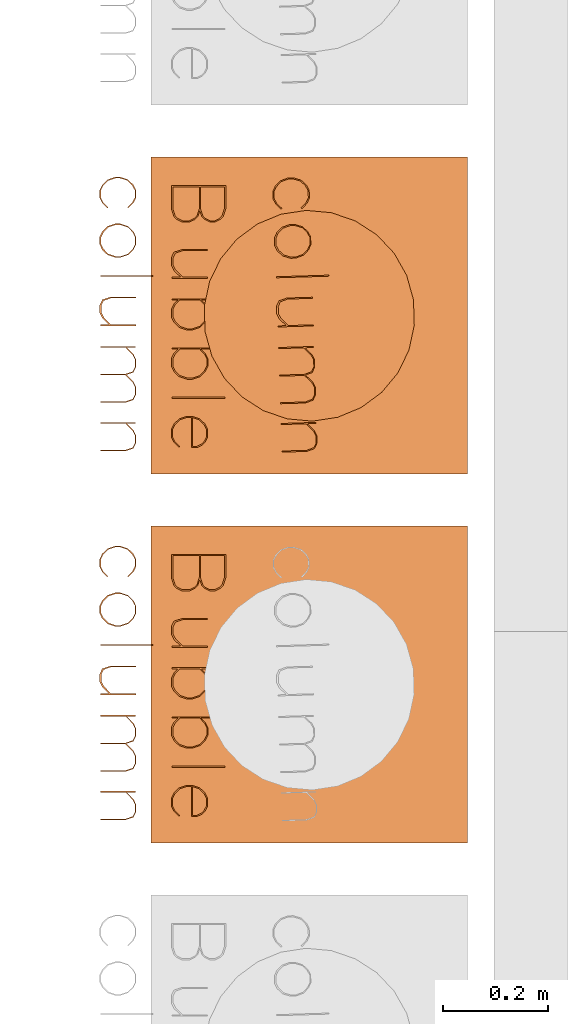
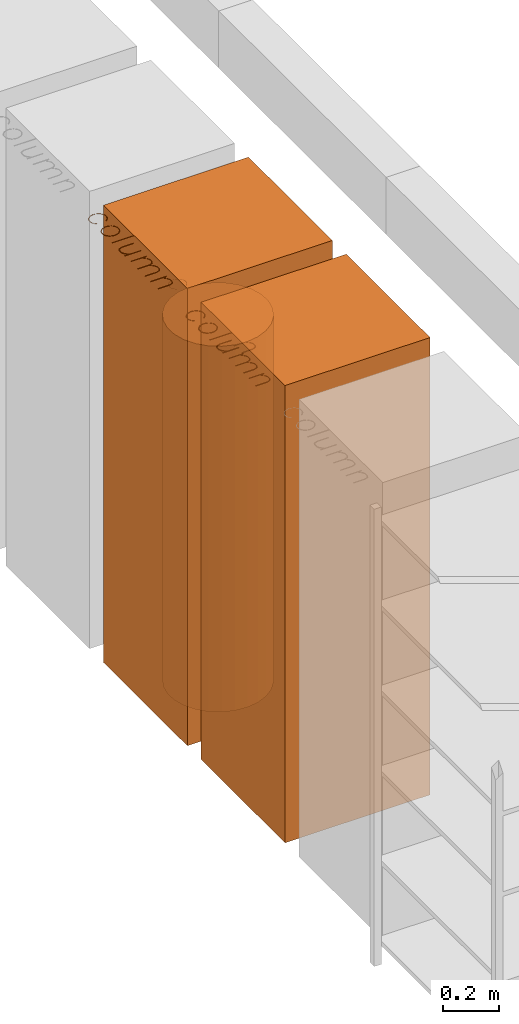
# One storey, part 8 of 43: 3 proxies.
"""IFC2X3 building model written with IfcOpenShell, lengths in metres."""

from ifc_helpers import new_model, entity, si_unit, converted_unit, derived_unit, direction, frame, origin, place, context, subcontext, project, spatial, face_set, surface_model, source, transform, mapped, material, material_list, type_object, type_shapes, element, save


model = new_model("IFC2X3")

# Units and contexts
model_context = context("Model", 3, precision=1e-05, world=origin(), true_north=direction((6.12303176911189e-17, 1.0)))
body_context = subcontext(model_context, "Body", "Model", "MODEL_VIEW")
ifc_project = project(units=[si_unit("LENGTHUNIT", "METRE"), si_unit("AREAUNIT", "SQUARE_METRE"), si_unit("VOLUMEUNIT", "CUBIC_METRE"), converted_unit("PLANEANGLEUNIT", "DEGREE", entity("IfcRatioMeasure", 0.0174532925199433), si_unit("PLANEANGLEUNIT", "RADIAN"), dimensions=[0, 0, 0, 0, 0, 0, 0]), si_unit("MASSUNIT", "GRAM", prefix="KILO"), derived_unit("MASSDENSITYUNIT", [(si_unit("MASSUNIT", "GRAM", prefix="KILO"), 1), (si_unit("LENGTHUNIT", "METRE"), -3)]), derived_unit("MOMENTOFINERTIAUNIT", [(si_unit("LENGTHUNIT", "METRE"), 4)]), si_unit("TIMEUNIT", "SECOND"), si_unit("FREQUENCYUNIT", "HERTZ"), si_unit("THERMODYNAMICTEMPERATUREUNIT", "DEGREE_CELSIUS"), derived_unit("THERMALTRANSMITTANCEUNIT", [(si_unit("MASSUNIT", "GRAM", prefix="KILO"), 1), (si_unit("THERMODYNAMICTEMPERATUREUNIT", "KELVIN"), -1), (si_unit("TIMEUNIT", "SECOND"), -3)]), derived_unit("VOLUMETRICFLOWRATEUNIT", [(si_unit("LENGTHUNIT", "METRE"), 3), (si_unit("TIMEUNIT", "SECOND"), -1)]), si_unit("ELECTRICCURRENTUNIT", "AMPERE"), si_unit("ELECTRICVOLTAGEUNIT", "VOLT"), si_unit("POWERUNIT", "WATT"), si_unit("FORCEUNIT", "NEWTON", prefix="KILO"), si_unit("ILLUMINANCEUNIT", "LUX"), si_unit("LUMINOUSFLUXUNIT", "LUMEN"), si_unit("LUMINOUSINTENSITYUNIT", "CANDELA"), derived_unit("USERDEFINED", [(si_unit("MASSUNIT", "GRAM", prefix="KILO"), -1), (si_unit("LENGTHUNIT", "METRE"), -2), (si_unit("TIMEUNIT", "SECOND"), 3), (si_unit("LUMINOUSFLUXUNIT", "LUMEN"), 1)]), derived_unit("LINEARVELOCITYUNIT", [(si_unit("LENGTHUNIT", "METRE"), 1), (si_unit("TIMEUNIT", "SECOND"), -1)]), si_unit("PRESSUREUNIT", "PASCAL"), derived_unit("USERDEFINED", [(si_unit("LENGTHUNIT", "METRE"), -2), (si_unit("MASSUNIT", "GRAM", prefix="KILO"), 1), (si_unit("TIMEUNIT", "SECOND"), -2)]), derived_unit("LINEARFORCEUNIT", [(si_unit("MASSUNIT", "GRAM", prefix="KILO"), 1), (si_unit("LENGTHUNIT", "METRE"), 1), (si_unit("TIMEUNIT", "SECOND"), -2), (si_unit("LENGTHUNIT", "METRE"), -1)]), derived_unit("PLANARFORCEUNIT", [(si_unit("MASSUNIT", "GRAM", prefix="KILO"), 1), (si_unit("LENGTHUNIT", "METRE"), 1), (si_unit("TIMEUNIT", "SECOND"), -2), (si_unit("LENGTHUNIT", "METRE"), -2)])], contexts=[model_context])

# Site, building, storey
site_placement = place(None, origin())
site = spatial("IfcSite", under=ifc_project, at=site_placement, Name="Default", CompositionType="ELEMENT")
building_placement = place(site_placement, origin())
building = spatial("IfcBuilding", under=site, at=building_placement, CompositionType="ELEMENT")
storey_placement = place(building_placement, frame((0.0, 0.0, 3.0)))
storey = spatial("IfcBuildingStorey", under=building, at=storey_placement, Name="01 OG", CompositionType="ELEMENT", Elevation=3.0)

# Proxies
ifc_material_1 = material(Name="dh_Stellfläche")
building_element_proxy_type_1 = type_object("IfcBuildingElementProxyType", Name="dh_Gerät_Stellfläche Bestand:Nutzergerät", PredefinedType="NOTDEFINED", material=ifc_material_1)
shared_shape_1 = source(origin(), body_context, "Body", "SurfaceModel", [
    surface_model("IfcFaceBasedSurfaceModel", [(-0.199099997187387, -0.507671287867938, 2.005), (-0.187681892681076, -0.503831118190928, 2.005), (-0.182484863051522, -0.498736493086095, 2.005), (-0.177569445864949, -0.488726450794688, 2.005), (-0.177569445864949, -0.478511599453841, 2.005), (-0.182484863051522, -0.468424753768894, 2.005), (-0.187681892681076, -0.46338133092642, 2.005), (-0.202351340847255, -0.458414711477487, 2.005), (-0.246385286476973, -0.458414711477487, 2.005), (-0.246385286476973, -0.561638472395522, 2.005), (-0.202351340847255, -0.561638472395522, 2.005), (-0.187681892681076, -0.556799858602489, 2.005), (-0.182484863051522, -0.551679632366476, 2.005), (-0.177569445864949, -0.541669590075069, 2.005), (-0.177569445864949, -0.526692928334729, 2.005), (-0.182484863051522, -0.516606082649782, 2.005), (-0.187681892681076, -0.511511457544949, 2.005), (-0.202607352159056, -0.508746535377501, 2.005), (-0.188731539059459, -0.513329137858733, 2.005), (-0.184353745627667, -0.517834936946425, 2.005), (-0.179771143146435, -0.52692333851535, 2.005), (-0.179771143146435, -0.540671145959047, 2.005), (-0.184353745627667, -0.549785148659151, 2.005), (-0.188731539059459, -0.554290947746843, 2.005), (-0.202607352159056, -0.558873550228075, 2.005), (-0.244260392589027, -0.558873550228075, 2.005), (-0.244260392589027, -0.508746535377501, 2.005), (-0.244260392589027, -0.506544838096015, 2.005), (-0.244260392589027, -0.461128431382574, 2.005), (-0.202607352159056, -0.461128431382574, 2.005), (-0.188731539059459, -0.465711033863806, 2.005), (-0.184353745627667, -0.470216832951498, 2.005), (-0.179771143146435, -0.479330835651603, 2.005), (-0.179771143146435, -0.488291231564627, 2.005), (-0.184353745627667, -0.497456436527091, 2.005), (-0.188731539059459, -0.501885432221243, 2.005), (-0.202607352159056, -0.506544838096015, 2.005), (-0.0728096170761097, -0.543922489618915, 2.005), (-0.0728096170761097, -0.559999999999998, 2.005), (-0.0706079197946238, -0.559999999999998, 2.005), (-0.0706079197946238, -0.492822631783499, 2.005), (-0.0728096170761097, -0.492822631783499, 2.005), (-0.0728096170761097, -0.540031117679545, 2.005), (-0.0866854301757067, -0.553778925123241, 2.005), (-0.095773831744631, -0.558361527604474, 2.005), (-0.109521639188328, -0.558361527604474, 2.005), (-0.118354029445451, -0.553906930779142, 2.005), (-0.123013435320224, -0.540287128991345, 2.005), (-0.123013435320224, -0.492822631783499, 2.005), (-0.125138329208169, -0.492822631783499, 2.005), (-0.125138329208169, -0.541413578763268, 2.005), (-0.120274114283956, -0.556646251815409, 2.005), (-0.110059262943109, -0.561638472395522, 2.005), (-0.0952362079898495, -0.561638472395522, 2.005), (-0.0852773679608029, -0.556774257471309, 2.005), (-0.0317454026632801, -0.559999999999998, 2.005), (-0.0296205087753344, -0.559999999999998, 2.005), (-0.0296205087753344, -0.548863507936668, 2.005), (-0.0218377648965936, -0.55682545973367, 2.005), (-0.0118789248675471, -0.561638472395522, 2.005), (0.00291852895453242, -0.561638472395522, 2.005), (0.0128261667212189, -0.55682545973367, 2.005), (0.0226570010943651, -0.546866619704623, 2.005), (0.0275724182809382, -0.532094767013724, 2.005), (0.0275724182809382, -0.522212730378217, 2.005), (0.0226570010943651, -0.507440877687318, 2.005), (0.0128261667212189, -0.497482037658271, 2.005), (0.00291852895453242, -0.492617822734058, 2.005), (-0.0118789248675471, -0.492617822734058, 2.005), (-0.0218377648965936, -0.497482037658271, 2.005), (-0.0296205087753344, -0.505367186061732, 2.005), (-0.0296205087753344, -0.460053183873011, 2.005), (-0.0317454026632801, -0.460053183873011, 2.005), (-0.0296205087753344, -0.508004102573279, 2.005), (-0.02045530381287, -0.499043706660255, 2.005), (-0.0113413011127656, -0.494384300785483, 2.005), (0.00240650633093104, -0.494384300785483, 2.005), (0.0114949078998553, -0.499043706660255, 2.005), (0.0207113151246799, -0.50813210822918, 2.005), (0.0253707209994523, -0.522007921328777, 2.005), (0.0253707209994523, -0.531249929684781, 2.005), (0.0207113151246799, -0.545125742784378, 2.005), (0.0114949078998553, -0.554290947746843, 2.005), (0.00240650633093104, -0.558873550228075, 2.005), (-0.0113413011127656, -0.558873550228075, 2.005), (-0.02045530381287, -0.554290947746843, 2.005), (-0.0296205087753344, -0.545253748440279, 2.005), (0.0616475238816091, -0.559999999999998, 2.005), (0.0637724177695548, -0.559999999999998, 2.005), (0.0637724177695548, -0.548863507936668, 2.005), (0.0715551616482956, -0.55682545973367, 2.005), (0.0815140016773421, -0.561638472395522, 2.005), (0.0963114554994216, -0.561638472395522, 2.005), (0.106219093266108, -0.55682545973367, 2.005), (0.116049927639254, -0.546866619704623, 2.005), (0.120965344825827, -0.532094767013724, 2.005), (0.120965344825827, -0.522212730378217, 2.005), (0.116049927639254, -0.507440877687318, 2.005), (0.106219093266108, -0.497482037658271, 2.005), (0.0963114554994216, -0.492617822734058, 2.005), (0.0815140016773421, -0.492617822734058, 2.005), (0.0715551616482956, -0.497482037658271, 2.005), (0.0637724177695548, -0.505367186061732, 2.005), (0.0637724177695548, -0.460053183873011, 2.005), (0.0616475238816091, -0.460053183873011, 2.005), (0.0637724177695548, -0.508004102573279, 2.005), (0.0729376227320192, -0.499043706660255, 2.005), (0.0820516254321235, -0.494384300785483, 2.005), (0.0957994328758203, -0.494384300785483, 2.005), (0.104887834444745, -0.499043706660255, 2.005), (0.114104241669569, -0.50813210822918, 2.005), (0.118763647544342, -0.522007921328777, 2.005), (0.118763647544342, -0.531249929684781, 2.005), (0.114104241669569, -0.545125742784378, 2.005), (0.104887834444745, -0.554290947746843, 2.005), (0.0957994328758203, -0.558873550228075, 2.005), (0.0820516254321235, -0.558873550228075, 2.005), (0.0729376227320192, -0.554290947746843, 2.005), (0.0637724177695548, -0.545253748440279, 2.005), (0.155040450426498, -0.559999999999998, 2.005), (0.157165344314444, -0.559999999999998, 2.005), (0.157165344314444, -0.460053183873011, 2.005), (0.155040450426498, -0.460053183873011, 2.005), (0.250276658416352, -0.547199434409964, 2.005), (0.248612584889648, -0.545535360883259, 2.005), (0.239242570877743, -0.554982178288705, 2.005), (0.230154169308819, -0.559564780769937, 2.005), (0.216406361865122, -0.559564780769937, 2.005), (0.207292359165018, -0.554982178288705, 2.005), (0.197999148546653, -0.54579137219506, 2.005), (0.193416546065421, -0.531889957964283, 2.005), (0.193416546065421, -0.523646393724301, 2.005), (0.250532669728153, -0.523646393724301, 2.005), (0.250532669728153, -0.512714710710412, 2.005), (0.24561725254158, -0.502730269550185, 2.005), (0.240573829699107, -0.497686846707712, 2.005), (0.23066619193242, -0.492822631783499, 2.005), (0.215868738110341, -0.492822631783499, 2.005), (0.205909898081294, -0.497686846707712, 2.005), (0.196155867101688, -0.507671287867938, 2.005), (0.191240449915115, -0.522366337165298, 2.005), (0.191240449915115, -0.532222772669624, 2.005), (0.196155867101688, -0.546917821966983, 2.005), (0.205909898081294, -0.55685106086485, 2.005), (0.215868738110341, -0.561638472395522, 2.005), (0.23066619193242, -0.561638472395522, 2.005), (0.240573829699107, -0.55685106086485, 2.005), (0.193826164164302, -0.521444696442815, 2.005), (0.197999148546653, -0.508746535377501, 2.005), (0.207292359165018, -0.499658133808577, 2.005), (0.216406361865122, -0.494998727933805, 2.005), (0.230154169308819, -0.494998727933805, 2.005), (0.239242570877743, -0.499658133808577, 2.005), (0.243748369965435, -0.504163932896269, 2.005), (0.248330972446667, -0.513277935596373, 2.005), (0.248330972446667, -0.521444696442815, 2.005), (-0.203580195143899, -0.6832458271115, 2.005), (-0.205244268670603, -0.681581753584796, 2.005), (-0.214614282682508, -0.691028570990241, 2.005), (-0.223702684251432, -0.695611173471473, 2.005), (-0.237450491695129, -0.695611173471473, 2.005), (-0.246564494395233, -0.691028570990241, 2.005), (-0.255857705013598, -0.681837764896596, 2.005), (-0.26044030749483, -0.667936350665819, 2.005), (-0.26044030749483, -0.658694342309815, 2.005), (-0.255857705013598, -0.644767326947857, 2.005), (-0.246564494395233, -0.635653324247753, 2.005), (-0.237450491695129, -0.630993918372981, 2.005), (-0.223702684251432, -0.630993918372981, 2.005), (-0.214614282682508, -0.635653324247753, 2.005), (-0.205244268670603, -0.645048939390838, 2.005), (-0.203580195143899, -0.643436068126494, 2.005), (-0.213283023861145, -0.633733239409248, 2.005), (-0.223190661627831, -0.628869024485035, 2.005), (-0.237988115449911, -0.628869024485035, 2.005), (-0.247946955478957, -0.633733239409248, 2.005), (-0.257700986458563, -0.643717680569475, 2.005), (-0.262616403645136, -0.658412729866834, 2.005), (-0.262616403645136, -0.66826916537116, 2.005), (-0.257700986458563, -0.682964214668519, 2.005), (-0.247946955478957, -0.692897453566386, 2.005), (-0.237988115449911, -0.697684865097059, 2.005), (-0.223190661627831, -0.697684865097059, 2.005), (-0.213283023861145, -0.692897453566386, 2.005), (-0.114974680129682, -0.682964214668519, 2.005), (-0.110059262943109, -0.66826916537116, 2.005), (-0.110059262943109, -0.658412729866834, 2.005), (-0.114974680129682, -0.643717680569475, 2.005), (-0.124805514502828, -0.633733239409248, 2.005), (-0.134713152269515, -0.628869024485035, 2.005), (-0.149510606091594, -0.628869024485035, 2.005), (-0.159469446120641, -0.633733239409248, 2.005), (-0.169223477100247, -0.643717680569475, 2.005), (-0.17413889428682, -0.658412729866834, 2.005), (-0.17413889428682, -0.66826916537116, 2.005), (-0.169223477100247, -0.682964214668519, 2.005), (-0.159469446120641, -0.692897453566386, 2.005), (-0.149510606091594, -0.697684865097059, 2.005), (-0.134713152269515, -0.697684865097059, 2.005), (-0.124805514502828, -0.692897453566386, 2.005), (-0.116920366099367, -0.681172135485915, 2.005), (-0.126136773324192, -0.690337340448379, 2.005), (-0.135225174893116, -0.694919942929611, 2.005), (-0.148972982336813, -0.694919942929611, 2.005), (-0.158086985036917, -0.690337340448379, 2.005), (-0.167380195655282, -0.681172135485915, 2.005), (-0.171962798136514, -0.667296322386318, 2.005), (-0.171962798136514, -0.658054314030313, 2.005), (-0.167380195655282, -0.644178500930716, 2.005), (-0.158086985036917, -0.635090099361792, 2.005), (-0.148972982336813, -0.630430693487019, 2.005), (-0.135225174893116, -0.630430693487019, 2.005), (-0.126136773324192, -0.635090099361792, 2.005), (-0.116920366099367, -0.644178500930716, 2.005), (-0.112260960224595, -0.658054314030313, 2.005), (-0.112260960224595, -0.667296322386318, 2.005), (-0.0759841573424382, -0.696046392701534, 2.005), (-0.0738592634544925, -0.696046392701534, 2.005), (-0.0738592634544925, -0.596099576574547, 2.005), (-0.0759841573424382, -0.596099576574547, 2.005), (0.0173063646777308, -0.679968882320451, 2.005), (0.0173063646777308, -0.696046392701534, 2.005), (0.0195080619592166, -0.696046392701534, 2.005), (0.0195080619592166, -0.628869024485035, 2.005), (0.0173063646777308, -0.628869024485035, 2.005), (0.0173063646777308, -0.676077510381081, 2.005), (0.00343055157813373, -0.689825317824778, 2.005), (-0.00565784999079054, -0.69440792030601, 2.005), (-0.0194056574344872, -0.69440792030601, 2.005), (-0.0282380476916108, -0.689953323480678, 2.005), (-0.0328974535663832, -0.676333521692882, 2.005), (-0.0328974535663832, -0.628869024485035, 2.005), (-0.0350223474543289, -0.628869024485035, 2.005), (-0.0350223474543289, -0.677459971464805, 2.005), (-0.0301581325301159, -0.692692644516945, 2.005), (-0.0199432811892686, -0.697684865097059, 2.005), (-0.00512022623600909, -0.697684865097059, 2.005), (0.00483861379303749, -0.692820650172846, 2.005), (0.0583705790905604, -0.696046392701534, 2.005), (0.060495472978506, -0.696046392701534, 2.005), (0.060495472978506, -0.648837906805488, 2.005), (0.0743968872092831, -0.635090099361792, 2.005), (0.0835364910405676, -0.630430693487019, 2.005), (0.0972330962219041, -0.630430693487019, 2.005), (0.106116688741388, -0.634962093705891, 2.005), (0.11069929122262, -0.648556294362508, 2.005), (0.11069929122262, -0.696046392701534, 2.005), (0.112900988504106, -0.696046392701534, 2.005), (0.112900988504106, -0.648837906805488, 2.005), (0.126776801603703, -0.635090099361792, 2.005), (0.135865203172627, -0.630430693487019, 2.005), (0.149613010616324, -0.630430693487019, 2.005), (0.158445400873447, -0.634962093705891, 2.005), (0.16310480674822, -0.648556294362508, 2.005), (0.16310480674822, -0.696046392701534, 2.005), (0.165229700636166, -0.696046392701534, 2.005), (0.165229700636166, -0.648684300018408, 2.005), (0.160365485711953, -0.633810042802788, 2.005), (0.150150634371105, -0.628869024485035, 2.005), (0.135353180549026, -0.628869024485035, 2.005), (0.125394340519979, -0.633682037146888, 2.005), (0.112235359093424, -0.646789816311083, 2.005), (0.107985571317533, -0.633810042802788, 2.005), (0.0978219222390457, -0.628869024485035, 2.005), (0.082947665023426, -0.628869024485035, 2.005), (0.0730656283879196, -0.633682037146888, 2.005), (0.060495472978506, -0.646252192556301, 2.005), (0.060495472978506, -0.629790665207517, 2.005), (0.0583705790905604, -0.629790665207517, 2.005), (0.202556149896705, -0.696046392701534, 2.005), (0.204681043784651, -0.696046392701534, 2.005), (0.204681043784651, -0.648837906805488, 2.005), (0.218582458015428, -0.635090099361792, 2.005), (0.227722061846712, -0.630430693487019, 2.005), (0.241418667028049, -0.630430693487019, 2.005), (0.250302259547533, -0.634962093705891, 2.005), (0.254884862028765, -0.648556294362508, 2.005), (0.254884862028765, -0.696046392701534, 2.005), (0.257086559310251, -0.696046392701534, 2.005), (0.257086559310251, -0.648684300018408, 2.005), (0.252171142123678, -0.633810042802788, 2.005), (0.24200749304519, -0.628869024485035, 2.005), (0.227133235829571, -0.628869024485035, 2.005), (0.217251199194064, -0.633682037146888, 2.005), (0.204681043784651, -0.646252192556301, 2.005), (0.204681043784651, -0.629790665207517, 2.005), (0.202556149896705, -0.629790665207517, 2.005), (0.300483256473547, 0.0, 2.0), (0.300483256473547, -0.600000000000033, 2.0), (-0.300483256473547, -0.600000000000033, 2.0), (-0.300483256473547, 0.0, 2.0), (0.300483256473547, 0.0, 0.0), (0.300483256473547, -0.600000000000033, 0.0), (-0.300483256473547, -0.600000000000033, 0.0), (-0.300483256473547, 0.0, 0.0)], [face_set([[[0, 1, 2, 3, 4, 5, 6, 7, 8, 9, 10, 11, 12, 13, 14, 15, 16], [17, 18, 19, 20, 21, 22, 23, 24, 25, 26], [27, 28, 29, 30, 31, 32, 33, 34, 35, 36]]]), face_set([[[37, 38, 39, 40, 41, 42, 43, 44, 45, 46, 47, 48, 49, 50, 51, 52, 53, 54]]]), face_set([[[55, 56, 57, 58, 59, 60, 61, 62, 63, 64, 65, 66, 67, 68, 69, 70, 71, 72], [73, 74, 75, 76, 77, 78, 79, 80, 81, 82, 83, 84, 85, 86]]]), face_set([[[87, 88, 89, 90, 91, 92, 93, 94, 95, 96, 97, 98, 99, 100, 101, 102, 103, 104], [105, 106, 107, 108, 109, 110, 111, 112, 113, 114, 115, 116, 117, 118]]]), face_set([[[119, 120, 121, 122]]]), face_set([[[123, 124, 125, 126, 127, 128, 129, 130, 131, 132, 133, 134, 135, 136, 137, 138, 139, 140, 141, 142, 143, 144, 145, 146], [147, 148, 149, 150, 151, 152, 153, 154, 155]]]), face_set([[[156, 157, 158, 159, 160, 161, 162, 163, 164, 165, 166, 167, 168, 169, 170, 171, 172, 173, 174, 175, 176, 177, 178, 179, 180, 181, 182, 183]]]), face_set([[[184, 185, 186, 187, 188, 189, 190, 191, 192, 193, 194, 195, 196, 197, 198, 199], [200, 201, 202, 203, 204, 205, 206, 207, 208, 209, 210, 211, 212, 213, 214, 215]]]), face_set([[[216, 217, 218, 219]]]), face_set([[[220, 221, 222, 223, 224, 225, 226, 227, 228, 229, 230, 231, 232, 233, 234, 235, 236, 237]]]), face_set([[[238, 239, 240, 241, 242, 243, 244, 245, 246, 247, 248, 249, 250, 251, 252, 253, 254, 255, 256, 257, 258, 259, 260, 261, 262, 263, 264, 265, 266, 267, 268]]]), face_set([[[269, 270, 271, 272, 273, 274, 275, 276, 277, 278, 279, 280, 281, 282, 283, 284, 285, 286]]]), face_set([[[287, 288, 289, 290]], [[291, 292, 293, 294]], [[290, 287, 291, 294]], [[289, 290, 294, 293]], [[288, 292, 293, 289]], [[287, 288, 292, 291]]])]),
])
type_shapes(building_element_proxy_type_1, [shared_shape_1])
for number, where, z_axis, x_axis, name in (
    (1, (16.8600000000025, 13.0235167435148, 0.7), (0.0, 0.0, 1.0), (0.0, -1.0, 0.0), "dh_Gerät_Stellfläche Bestand:Nutzergerät"),
    (2, (16.8600000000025, 12.3235167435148, 0.7), (0.0, 0.0, 1.0), (0.0, -1.0, 0.0), "dh_Gerät_Stellfläche Bestand:Nutzergerät"),
):
    element("IfcBuildingElementProxy", number, at=place(storey_placement, frame(where, z_axis=z_axis, x_axis=x_axis)), inside=storey, type_object=building_element_proxy_type_1, material=ifc_material_1, Name=name, ObjectType="dh_Gerät_Stellfläche Bestand:Nutzergerät", context=body_context, shape_type="MappedRepresentation", body=[
        mapped(shared_shape_1, transform((0.0, 0.0, 0.0), scale=1.0)),
    ])
ifc_material_2 = material(Name="Kunststoff, undurchsichtig schwarz")
ifc_material_list = material_list([ifc_material_2, ifc_material_1])
building_element_proxy_type_2 = type_object("IfcBuildingElementProxyType", Name="dh_Gerät_Stellfläche Bestand_rund:Nutzergerät", PredefinedType="NOTDEFINED", material=ifc_material_list)
shared_shape_2 = source(origin(), body_context, "Body", "SurfaceModel", [
    surface_model("IfcFaceBasedSurfaceModel", [(0.0590362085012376, 0.152937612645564, 1.605), (0.0573721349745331, 0.154601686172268, 1.605), (0.0480021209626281, 0.145154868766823, 1.605), (0.0389137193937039, 0.140572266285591, 1.605), (0.0251659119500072, 0.140572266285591, 1.605), (0.0160519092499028, 0.145154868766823, 1.605), (0.00675869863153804, 0.154345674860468, 1.605), (0.00217609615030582, 0.168247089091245, 1.605), (0.00217609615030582, 0.177489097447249, 1.605), (0.00675869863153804, 0.191416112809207, 1.605), (0.0160519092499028, 0.200530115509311, 1.605), (0.0251659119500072, 0.205189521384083, 1.605), (0.0389137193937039, 0.205189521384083, 1.605), (0.0480021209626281, 0.200530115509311, 1.605), (0.0573721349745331, 0.191134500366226, 1.605), (0.0590362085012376, 0.19274737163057, 1.605), (0.0493333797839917, 0.202450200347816, 1.605), (0.0394257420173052, 0.207314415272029, 1.605), (0.0246282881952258, 0.207314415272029, 1.605), (0.0146694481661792, 0.202450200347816, 1.605), (0.00491541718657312, 0.192465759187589, 1.605), (0.0, 0.17777070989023, 1.605), (0.0, 0.167914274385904, 1.605), (0.00491541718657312, 0.153219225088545, 1.605), (0.0146694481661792, 0.143285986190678, 1.605), (0.0246282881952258, 0.138498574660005, 1.605), (0.0394257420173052, 0.138498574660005, 1.605), (0.0493333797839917, 0.143285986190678, 1.605), (0.147641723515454, 0.153219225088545, 1.605), (0.152557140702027, 0.167914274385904, 1.605), (0.152557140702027, 0.17777070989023, 1.605), (0.147641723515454, 0.192465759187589, 1.605), (0.137810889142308, 0.202450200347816, 1.605), (0.127903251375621, 0.207314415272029, 1.605), (0.113105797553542, 0.207314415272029, 1.605), (0.103146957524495, 0.202450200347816, 1.605), (0.0933929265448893, 0.192465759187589, 1.605), (0.0884775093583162, 0.17777070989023, 1.605), (0.0884775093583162, 0.167914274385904, 1.605), (0.0933929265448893, 0.153219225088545, 1.605), (0.103146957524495, 0.143285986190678, 1.605), (0.113105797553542, 0.138498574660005, 1.605), (0.127903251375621, 0.138498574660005, 1.605), (0.137810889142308, 0.143285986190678, 1.605), (0.145696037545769, 0.155011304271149, 1.605), (0.136479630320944, 0.145846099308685, 1.605), (0.12739122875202, 0.141263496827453, 1.605), (0.113643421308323, 0.141263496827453, 1.605), (0.104529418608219, 0.145846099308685, 1.605), (0.0952362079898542, 0.155011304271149, 1.605), (0.0906536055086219, 0.168887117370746, 1.605), (0.0906536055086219, 0.178129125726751, 1.605), (0.0952362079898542, 0.192004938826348, 1.605), (0.104529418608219, 0.201093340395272, 1.605), (0.113643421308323, 0.205752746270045, 1.605), (0.12739122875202, 0.205752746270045, 1.605), (0.136479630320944, 0.201093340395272, 1.605), (0.145696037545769, 0.192004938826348, 1.605), (0.150355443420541, 0.178129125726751, 1.605), (0.150355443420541, 0.168887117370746, 1.605), (0.186632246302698, 0.14013704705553, 1.605), (0.188757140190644, 0.14013704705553, 1.605), (0.188757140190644, 0.240083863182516, 1.605), (0.186632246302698, 0.240083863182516, 1.605), (0.279922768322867, 0.156214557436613, 1.605), (0.279922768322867, 0.14013704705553, 1.605), (0.282124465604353, 0.14013704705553, 1.605), (0.282124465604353, 0.207314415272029, 1.605), (0.279922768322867, 0.207314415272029, 1.605), (0.279922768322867, 0.160105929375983, 1.605), (0.26604695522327, 0.146358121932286, 1.605), (0.256958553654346, 0.141775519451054, 1.605), (0.243210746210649, 0.141775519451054, 1.605), (0.234378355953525, 0.146230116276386, 1.605), (0.229718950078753, 0.159849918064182, 1.605), (0.229718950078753, 0.207314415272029, 1.605), (0.227594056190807, 0.207314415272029, 1.605), (0.227594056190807, 0.158723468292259, 1.605), (0.23245827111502, 0.143490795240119, 1.605), (0.242673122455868, 0.138498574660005, 1.605), (0.257496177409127, 0.138498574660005, 1.605), (0.267455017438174, 0.143362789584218, 1.605), (0.320986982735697, 0.14013704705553, 1.605), (0.323111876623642, 0.14013704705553, 1.605), (0.323111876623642, 0.187345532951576, 1.605), (0.337013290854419, 0.201093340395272, 1.605), (0.346152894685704, 0.205752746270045, 1.605), (0.35984949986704, 0.205752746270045, 1.605), (0.368733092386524, 0.201221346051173, 1.605), (0.373315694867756, 0.187627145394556, 1.605), (0.373315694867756, 0.14013704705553, 1.605), (0.375517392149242, 0.14013704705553, 1.605), (0.375517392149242, 0.187345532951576, 1.605), (0.389393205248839, 0.201093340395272, 1.605), (0.398481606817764, 0.205752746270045, 1.605), (0.41222941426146, 0.205752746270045, 1.605), (0.421061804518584, 0.201221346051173, 1.605), (0.425721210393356, 0.187627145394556, 1.605), (0.425721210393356, 0.14013704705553, 1.605), (0.427846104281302, 0.14013704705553, 1.605), (0.427846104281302, 0.187499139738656, 1.605), (0.422981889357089, 0.202373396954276, 1.605), (0.412767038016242, 0.207314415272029, 1.605), (0.397969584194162, 0.207314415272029, 1.605), (0.388010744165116, 0.202501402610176, 1.605), (0.37485176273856, 0.189393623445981, 1.605), (0.370601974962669, 0.202373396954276, 1.605), (0.360438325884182, 0.207314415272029, 1.605), (0.345564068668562, 0.207314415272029, 1.605), (0.335682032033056, 0.202501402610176, 1.605), (0.323111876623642, 0.189931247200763, 1.605), (0.323111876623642, 0.206392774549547, 1.605), (0.320986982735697, 0.206392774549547, 1.605), (0.465172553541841, 0.14013704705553, 1.605), (0.467297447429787, 0.14013704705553, 1.605), (0.467297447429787, 0.187345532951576, 1.605), (0.481198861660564, 0.201093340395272, 1.605), (0.490338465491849, 0.205752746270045, 1.605), (0.504035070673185, 0.205752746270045, 1.605), (0.512918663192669, 0.201221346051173, 1.605), (0.517501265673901, 0.187627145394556, 1.605), (0.517501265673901, 0.14013704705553, 1.605), (0.519702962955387, 0.14013704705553, 1.605), (0.519702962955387, 0.187499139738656, 1.605), (0.514787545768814, 0.202373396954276, 1.605), (0.504623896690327, 0.207314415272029, 1.605), (0.489749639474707, 0.207314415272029, 1.605), (0.479867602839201, 0.202501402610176, 1.605), (0.467297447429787, 0.189931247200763, 1.605), (0.467297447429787, 0.206392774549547, 1.605), (0.465172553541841, 0.206392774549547, 1.605)], [face_set([[[0, 1, 2, 3, 4, 5, 6, 7, 8, 9, 10, 11, 12, 13, 14, 15, 16, 17, 18, 19, 20, 21, 22, 23, 24, 25, 26, 27]]]), face_set([[[28, 29, 30, 31, 32, 33, 34, 35, 36, 37, 38, 39, 40, 41, 42, 43], [44, 45, 46, 47, 48, 49, 50, 51, 52, 53, 54, 55, 56, 57, 58, 59]]]), face_set([[[60, 61, 62, 63]]]), face_set([[[64, 65, 66, 67, 68, 69, 70, 71, 72, 73, 74, 75, 76, 77, 78, 79, 80, 81]]]), face_set([[[82, 83, 84, 85, 86, 87, 88, 89, 90, 91, 92, 93, 94, 95, 96, 97, 98, 99, 100, 101, 102, 103, 104, 105, 106, 107, 108, 109, 110, 111, 112]]]), face_set([[[113, 114, 115, 116, 117, 118, 119, 120, 121, 122, 123, 124, 125, 126, 127, 128, 129, 130]]])]),
    surface_model("IfcFaceBasedSurfaceModel", [(0.462616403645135, 0.200137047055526, 1.6), (0.456804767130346, 0.152273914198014, 1.6), (0.439707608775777, 0.107192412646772, 1.6), (0.412318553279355, 0.067512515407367, 1.6), (0.376229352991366, 0.035540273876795, 1.6), (0.333537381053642, 0.0131337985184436, 1.6), (0.286723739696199, 0.00159527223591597, 1.6), (0.23850906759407, 0.00159527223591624, 1.6), (0.191695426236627, 0.0131337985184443, 1.6), (0.149003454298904, 0.0355402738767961, 1.6), (0.112914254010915, 0.0675125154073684, 1.6), (0.0855251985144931, 0.107192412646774, 1.6), (0.0684280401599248, 0.152273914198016, 1.6), (0.0626164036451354, 0.200137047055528, 1.6), (0.0684280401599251, 0.248000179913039, 1.6), (0.0855251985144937, 0.293081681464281, 1.6), (0.112914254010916, 0.332761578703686, 1.6), (0.149003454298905, 0.364733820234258, 1.6), (0.191695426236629, 0.38714029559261, 1.6), (0.238509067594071, 0.398678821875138, 1.6), (0.2867237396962, 0.398678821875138, 1.6), (0.333537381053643, 0.38714029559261, 1.6), (0.376229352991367, 0.364733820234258, 1.6), (0.412318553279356, 0.332761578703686, 1.6), (0.439707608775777, 0.293081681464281, 1.6), (0.456804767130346, 0.248000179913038, 1.6), (0.462616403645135, 0.200137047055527, 0.0), (0.456804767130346, 0.152273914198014, 0.0), (0.439707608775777, 0.107192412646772, 0.0), (0.412318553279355, 0.067512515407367, 0.0), (0.376229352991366, 0.035540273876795, 0.0), (0.333537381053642, 0.0131337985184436, 0.0), (0.286723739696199, 0.00159527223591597, 0.0), (0.23850906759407, 0.00159527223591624, 0.0), (0.191695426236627, 0.0131337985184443, 0.0), (0.149003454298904, 0.0355402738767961, 0.0), (0.112914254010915, 0.0675125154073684, 0.0), (0.0855251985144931, 0.107192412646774, 0.0), (0.0684280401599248, 0.152273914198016, 0.0), (0.0626164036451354, 0.200137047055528, 0.0), (0.0684280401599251, 0.248000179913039, 0.0), (0.0855251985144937, 0.293081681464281, 0.0), (0.112914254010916, 0.332761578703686, 0.0), (0.149003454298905, 0.364733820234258, 0.0), (0.191695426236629, 0.38714029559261, 0.0), (0.238509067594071, 0.398678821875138, 0.0), (0.2867237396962, 0.398678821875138, 0.0), (0.333537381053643, 0.38714029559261, 0.0), (0.376229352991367, 0.364733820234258, 0.0), (0.412318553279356, 0.332761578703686, 0.0), (0.439707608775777, 0.293081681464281, 0.0), (0.456804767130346, 0.248000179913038, 0.0)], [face_set([[[0, 1, 2, 3, 4, 5, 6, 7, 8, 9, 10, 11, 12, 13, 14, 15, 16, 17, 18, 19, 20, 21, 22, 23, 24, 25]], [[26, 27, 28, 29, 30, 31, 32, 33, 34, 35, 36, 37, 38, 39, 40, 41, 42, 43, 44, 45, 46, 47, 48, 49, 50, 51]], [[13, 39, 38, 12]], [[12, 38, 37, 11]], [[9, 35, 34, 8]], [[10, 36, 35, 9]], [[11, 37, 36, 10]], [[8, 34, 33, 7]], [[7, 33, 32, 6]], [[6, 32, 31, 5]], [[5, 31, 30, 4]], [[2, 28, 27, 1]], [[3, 29, 28, 2]], [[4, 30, 29, 3]], [[1, 27, 26, 0]], [[25, 51, 50, 24]], [[26, 51, 25, 0]], [[22, 48, 47, 21]], [[23, 49, 48, 22]], [[24, 50, 49, 23]], [[21, 47, 46, 20]], [[20, 46, 45, 19]], [[19, 45, 44, 18]], [[18, 44, 43, 17]], [[15, 41, 40, 14]], [[16, 42, 41, 15]], [[17, 43, 42, 16]], [[14, 40, 39, 13]]])]),
])
type_shapes(building_element_proxy_type_2, [shared_shape_2])
proxy_placement = place(storey_placement, frame((16.35185157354, 13.2793466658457, 0.7), z_axis=(0.0, 0.0, 1.0), x_axis=(0.0308691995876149, -0.999523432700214, 0.0)))
element("IfcBuildingElementProxy", 3, at=proxy_placement, inside=storey, type_object=building_element_proxy_type_2, material=ifc_material_1, Name="dh_Gerät_Stellfläche Bestand_rund:Nutzergerät", ObjectType="dh_Gerät_Stellfläche Bestand_rund:Nutzergerät", context=body_context, shape_type="MappedRepresentation", body=[
    mapped(shared_shape_2, transform((0.0, 0.0, 0.0), scale=1.0)),
])

save(model, "model.ifc")
